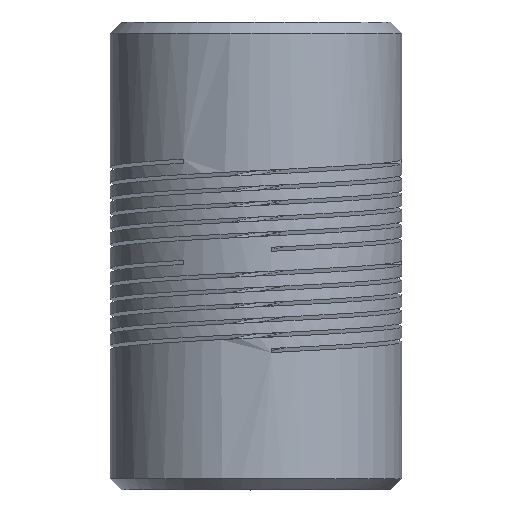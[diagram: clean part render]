
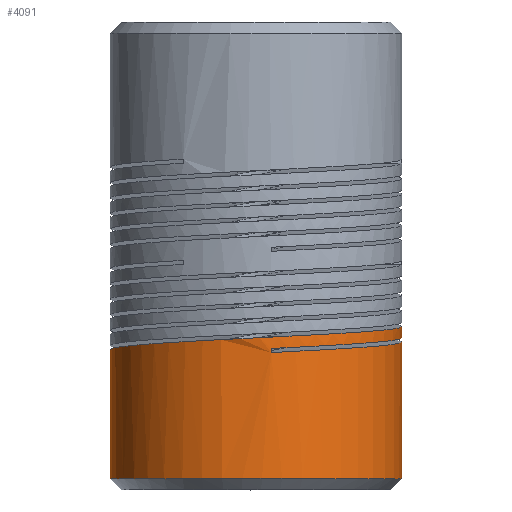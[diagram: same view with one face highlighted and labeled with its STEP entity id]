
A CAD part, top view. The second image highlights one B-rep face of the part: STEP entity #4091.
In plain terms, the highlighted free-form (B-spline) face has degree [1, 3] with [2, 13] control points.
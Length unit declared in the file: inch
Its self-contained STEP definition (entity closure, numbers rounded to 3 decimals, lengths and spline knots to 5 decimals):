
#566=CARTESIAN_POINT('',(-0.69796,-0.60746,
0.00003));
#567=CARTESIAN_POINT('',(-0.69796,-0.60746,
0.01839));
#568=CARTESIAN_POINT('',(-0.69469,-0.60746,
0.05649));
#569=CARTESIAN_POINT('',(-0.67816,-0.60746,
0.11509));
#570=CARTESIAN_POINT('',(-0.64913,-0.60746,
0.17156));
#571=CARTESIAN_POINT('',(-0.60828,-0.60746,
0.22197));
#572=CARTESIAN_POINT('',(-0.56627,-0.60746,
0.25601));
#573=CARTESIAN_POINT('',(-0.52963,-0.60746,
0.27734));
#574=CARTESIAN_POINT('',(-0.50113,-0.60746,
0.29028));
#575=CARTESIAN_POINT('',(-0.4721,-0.60746,
0.30012));
#576=CARTESIAN_POINT('',(-0.44298,-0.60746,
0.30692));
#577=CARTESIAN_POINT('',(-0.41902,-0.60746,
0.31018));
#578=CARTESIAN_POINT('',(-0.40019,-0.60746,
0.31144));
#579=CARTESIAN_POINT('',(-0.38634,-0.60746,
0.31174));
#580=CARTESIAN_POINT('',(-0.3725,-0.60746,
0.31144));
#581=CARTESIAN_POINT('',(-0.35366,-0.60746,
0.31018));
#582=CARTESIAN_POINT('',(-0.3297,-0.60746,
0.30692));
#583=CARTESIAN_POINT('',(-0.30059,-0.60746,
0.30012));
#584=CARTESIAN_POINT('',(-0.27155,-0.60746,
0.29028));
#585=CARTESIAN_POINT('',(-0.24305,-0.60746,
0.27734));
#586=CARTESIAN_POINT('',(-0.20641,-0.60746,
0.25601));
#587=CARTESIAN_POINT('',(-0.16441,-0.60746,
0.22197));
#588=CARTESIAN_POINT('',(-0.12355,-0.60746,
0.17156));
#589=CARTESIAN_POINT('',(-0.09452,-0.60746,
0.11509));
#590=CARTESIAN_POINT('',(-0.07799,-0.60746,
0.05649));
#591=CARTESIAN_POINT('',(-0.07473,-0.60746,
0.01839));
#592=CARTESIAN_POINT('',(-0.07473,-0.60746,
0.00003));
#599=CARTESIAN_POINT('',(-0.69796,-0.33147,
0.00003));
#600=CARTESIAN_POINT('',(-0.69797,-0.33106,
0.00819));
#601=CARTESIAN_POINT('',(-0.69569,-0.32803,
0.06802));
#602=CARTESIAN_POINT('',(-0.6587,-0.32238,
0.1769));
#603=CARTESIAN_POINT('',(-0.54131,-0.31453,
0.28543));
#604=CARTESIAN_POINT('',(-0.38634,-0.30667,
0.32479));
#605=CARTESIAN_POINT('',(-0.23138,-0.29882,
0.28543));
#606=CARTESIAN_POINT('',(-0.11399,-0.29096,
0.17691));
#607=CARTESIAN_POINT('',(-0.07698,-0.28531,
0.068));
#608=CARTESIAN_POINT('',(-0.07472,-0.28228,
0.00819));
#609=CARTESIAN_POINT('',(-0.07472,-0.28187,
0.00003));
#611=CARTESIAN_POINT('',(-0.07472,-0.30628,
0.00003));
#612=CARTESIAN_POINT('',(-0.07474,-0.30876,
0.04896));
#613=CARTESIAN_POINT('',(-0.09882,-0.31386,
0.14957));
#614=CARTESIAN_POINT('',(-0.20241,-0.32157,
0.26768));
#615=CARTESIAN_POINT('',(-0.30238,-0.32681,
0.30453));
#616=CARTESIAN_POINT('',(-0.35377,-0.32943,
0.30994));
#618=CARTESIAN_POINT('',(-0.35377,-0.33809,
0.30994));
#619=CARTESIAN_POINT('',(-0.30238,-0.33547,
0.30453));
#620=CARTESIAN_POINT('',(-0.20241,-0.33023,
0.26768));
#621=CARTESIAN_POINT('',(-0.09882,-0.32252,
0.14957));
#622=CARTESIAN_POINT('',(-0.07474,-0.31742,
0.04896));
#623=CARTESIAN_POINT('',(-0.07472,-0.31494,
0.00003));
#940=DIRECTION('',(0.,-1.,0.));
#941=VECTOR('',#940,0.02441);
#942=CARTESIAN_POINT('',(-0.07472,-0.28187,
0.00003));
#943=LINE('',#942,#941);
#944=DIRECTION('',(0.,-1.,0.));
#945=VECTOR('',#944,0.29252);
#946=CARTESIAN_POINT('',(-0.07472,-0.31494,
0.00003));
#947=LINE('',#946,#945);
#994=DIRECTION('',(0.,-1.,0.));
#995=VECTOR('',#994,0.27598);
#996=CARTESIAN_POINT('',(-0.69796,-0.33147,
0.00003));
#997=LINE('',#996,#995);
#2534=DIRECTION('',(0.,-1.,0.));
#2535=VECTOR('',#2534,0.00866);
#2536=CARTESIAN_POINT('',(-0.35377,-0.32943,
0.30994));
#2537=LINE('',#2536,#2535);
#3208=CARTESIAN_POINT('',(-0.35377,-0.33809,
0.30994));
#3210=VERTEX_POINT('',#3208);
#3216=CARTESIAN_POINT('',(-0.35377,-0.32943,
0.30994));
#3218=VERTEX_POINT('',#3216);
#3312=CARTESIAN_POINT('',(-0.07472,-0.28187,
0.00003));
#3313=CARTESIAN_POINT('',(-0.07472,-0.30628,
0.00003));
#3314=VERTEX_POINT('',#3312);
#3315=VERTEX_POINT('',#3313);
#3316=CARTESIAN_POINT('',(-0.07472,-0.31494,
0.00003));
#3317=CARTESIAN_POINT('',(-0.07473,-0.60746,
0.00003));
#3318=VERTEX_POINT('',#3316);
#3319=VERTEX_POINT('',#3317);
#3320=CARTESIAN_POINT('',(-0.69796,-0.33147,
0.00003));
#3321=CARTESIAN_POINT('',(-0.69796,-0.60746,
0.00003));
#3322=VERTEX_POINT('',#3320);
#3323=VERTEX_POINT('',#3321);
#4047=CARTESIAN_POINT('',(-0.69796,0.3453,
0.00003));
#4048=CARTESIAN_POINT('',(-0.69796,0.3453,
0.18257));
#4049=CARTESIAN_POINT('',(-0.56888,0.3453,
0.31164));
#4050=CARTESIAN_POINT('',(-0.38634,0.3453,
0.31164));
#4051=CARTESIAN_POINT('',(-0.2038,0.3453,
0.31164));
#4052=CARTESIAN_POINT('',(-0.07473,0.3453,
0.18257));
#4053=CARTESIAN_POINT('',(-0.07473,0.3453,
0.00003));
#4054=CARTESIAN_POINT('',(-0.07473,0.3453,
-0.18251));
#4055=CARTESIAN_POINT('',(-0.2038,0.3453,
-0.31159));
#4056=CARTESIAN_POINT('',(-0.38634,0.3453,
-0.31159));
#4057=CARTESIAN_POINT('',(-0.56888,0.3453,
-0.31159));
#4058=CARTESIAN_POINT('',(-0.69796,0.3453,
-0.18251));
#4059=CARTESIAN_POINT('',(-0.69796,0.3453,
0.00003));
#4060=CARTESIAN_POINT('',(-0.69796,-0.61397,
0.00003));
#4061=CARTESIAN_POINT('',(-0.69796,-0.61397,
0.18257));
#4062=CARTESIAN_POINT('',(-0.56888,-0.61397,
0.31164));
#4063=CARTESIAN_POINT('',(-0.38634,-0.61397,
0.31164));
#4064=CARTESIAN_POINT('',(-0.2038,-0.61397,
0.31164));
#4065=CARTESIAN_POINT('',(-0.07473,-0.61397,
0.18257));
#4066=CARTESIAN_POINT('',(-0.07473,-0.61397,
0.00003));
#4067=CARTESIAN_POINT('',(-0.07473,-0.61397,
-0.18251));
#4068=CARTESIAN_POINT('',(-0.2038,-0.61397,
-0.31159));
#4069=CARTESIAN_POINT('',(-0.38634,-0.61397,
-0.31159));
#4070=CARTESIAN_POINT('',(-0.56888,-0.61397,
-0.31159));
#4071=CARTESIAN_POINT('',(-0.69796,-0.61397,
-0.18251));
#4072=CARTESIAN_POINT('',(-0.69796,-0.61397,
0.00003));
#4073=(BOUNDED_SURFACE()B_SPLINE_SURFACE(1,3,((#4047,#4048,#4049,#4050,#4051,
#4052,#4053,#4054,#4055,#4056,#4057,#4058,#4059),(#4060,#4061,#4062,#4063,#4064,
#4065,#4066,#4067,#4068,#4069,#4070,#4071,#4072)),.UNSPECIFIED.,.F.,.T.,.F.)B_SPLINE_SURFACE_WITH_KNOTS((2,2),(4,3,3,3,4),(0.07581,3.15419),(
-3.14159,-1.5708,0.,1.5708,3.14159),
.UNSPECIFIED.)GEOMETRIC_REPRESENTATION_ITEM()RATIONAL_B_SPLINE_SURFACE(((1.,
0.805,0.805,1.,0.805,0.805,
1.,0.805,0.805,1.,0.805,
0.805,1.),(1.,0.805,0.805,1.,
0.805,0.805,1.,0.805,0.805,
1.,0.805,0.805,1.)))REPRESENTATION_ITEM('')SURFACE(
));
#4075=ORIENTED_EDGE('',*,*,#4074,.T.);
#4077=ORIENTED_EDGE('',*,*,#4076,.T.);
#4079=ORIENTED_EDGE('',*,*,#4078,.T.);
#4081=ORIENTED_EDGE('',*,*,#4080,.T.);
#4083=ORIENTED_EDGE('',*,*,#4082,.T.);
#4085=ORIENTED_EDGE('',*,*,#4084,.T.);
#4086=ORIENTED_EDGE('',*,*,#4041,.F.);
#4088=ORIENTED_EDGE('',*,*,#4087,.F.);
#4089=EDGE_LOOP('',(#4075,#4077,#4079,#4081,#4083,#4085,#4086,#4088));
#4090=FACE_OUTER_BOUND('',#4089,.F.);
#593=B_SPLINE_CURVE_WITH_KNOTS('',3,(#566,#567,#568,#569,#570,#571,#572,#573,
#574,#575,#576,#577,#578,#579,#580,#581,#582,#583,#584,#585,#586,#587,#588,#589,
#590,#591,#592),.UNSPECIFIED.,.F.,.F.,(4,1,1,1,1,1,1,1,1,1,1,1,1,1,1,1,1,1,1,1,
1,1,1,1,4),(0.,0.0625,0.125,0.1875,0.25,0.3125,0.34375,0.375,
0.40625,0.4375,0.46875,0.48438,0.5,0.51563,0.53125,0.5625,
0.59375,0.625,0.65625,0.6875,0.75,0.8125,0.875,0.9375,1.),
.UNSPECIFIED.);
#610=B_SPLINE_CURVE_WITH_KNOTS('',3,(#599,#600,#601,#602,#603,#604,#605,#606,
#607,#608,#609),.UNSPECIFIED.,.F.,.F.,(4,1,1,1,1,1,1,1,4),(0.,
0.025,0.18333,0.34166,0.5,
0.65833,0.81666,0.97499,1.),.UNSPECIFIED.);
#617=B_SPLINE_CURVE_WITH_KNOTS('',3,(#611,#612,#613,#614,#615,#616),
.UNSPECIFIED.,.F.,.F.,(4,1,1,4),(0.,0.32142,0.66071,1.),
.UNSPECIFIED.);
#624=B_SPLINE_CURVE_WITH_KNOTS('',3,(#618,#619,#620,#621,#622,#623),
.UNSPECIFIED.,.F.,.F.,(4,1,1,4),(0.,0.33929,0.67858,1.),
.UNSPECIFIED.);
#4041=EDGE_CURVE('',#3323,#3319,#593,.T.);
#4074=EDGE_CURVE('',#3322,#3314,#610,.T.);
#4076=EDGE_CURVE('',#3314,#3315,#943,.T.);
#4078=EDGE_CURVE('',#3315,#3218,#617,.T.);
#4080=EDGE_CURVE('',#3218,#3210,#2537,.T.);
#4082=EDGE_CURVE('',#3210,#3318,#624,.T.);
#4084=EDGE_CURVE('',#3318,#3319,#947,.T.);
#4087=EDGE_CURVE('',#3322,#3323,#997,.T.);
#4091=ADVANCED_FACE('',(#4090),#4073,.T.);
